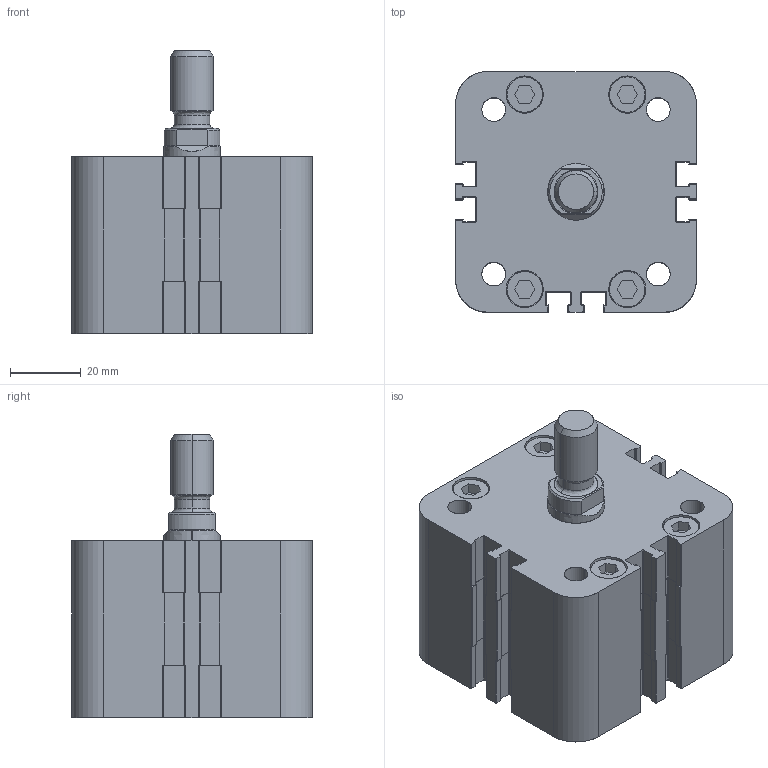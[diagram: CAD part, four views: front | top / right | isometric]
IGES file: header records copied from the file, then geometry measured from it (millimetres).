
Start section: SolidWorks IGES file using analytic representation for surfaces
Global section: file name: K:\Disegni Esecutivi\Cilindri\2_DISEGNI_cilindri_in_produzione\CILINDRO_ISO_21287\seconda versione cilindro 21287\2_CIL50\Complessivo_W50\W50_PIENI\WBM050\WBM0500005A.igs; native system: SolidWorks 2011; preprocessor: SolidWorks 2011; author: Cad01; date: 120803.170515; units: millimetre
Bounding box: 68 x 68 x 80 mm (x, y, z)
Surface area: 34949.3 mm2 (no closed solid volume)
Topology: 0 solids, 0 shells, 462 faces, 5003 edges, 5003 vertices
Faces by surface type: bspline 235, revolution 227
